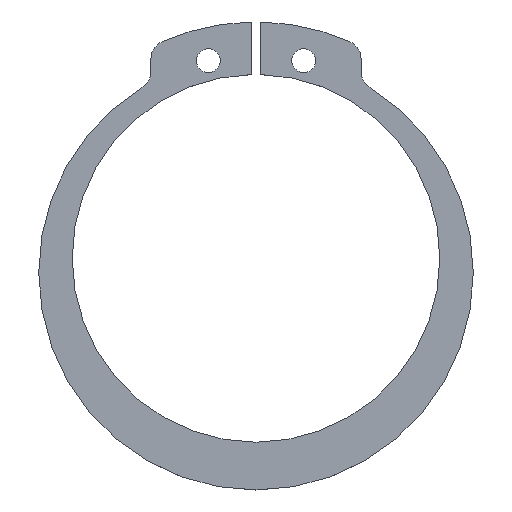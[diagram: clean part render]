
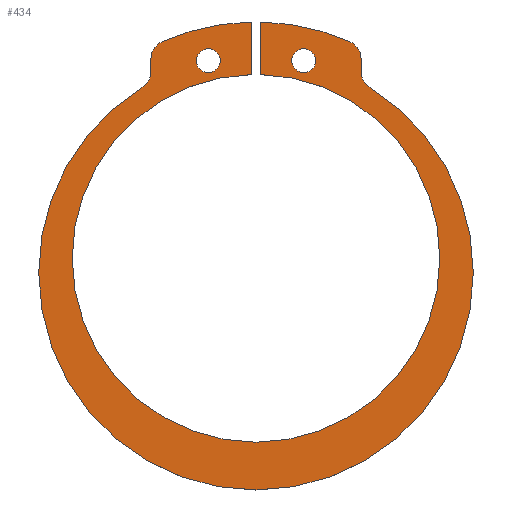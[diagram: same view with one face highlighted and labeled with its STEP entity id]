
A CAD part, top view. The second image highlights one B-rep face of the part: STEP entity #434.
In plain terms, the highlighted planar face has unit normal (0, 0, 1).
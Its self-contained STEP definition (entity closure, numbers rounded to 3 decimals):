
#70=CARTESIAN_POINT('Vertex',(-9.8,22.455,0.875)) ;
#73=CARTESIAN_POINT('Axis2P3D Location',(0.,0.,0.875)) ;
#77=CARTESIAN_POINT('Vertex',(-0.5,24.495,0.875)) ;
#264=CARTESIAN_POINT('Vertex',(-11.,20.622,0.875)) ;
#267=CARTESIAN_POINT('Axis2P3D Location',(-9.,20.622,0.875)) ;
#279=CARTESIAN_POINT('Axis2P3D Location',(-13.,19.311,0.875)) ;
#284=CARTESIAN_POINT('Axis2P3D Location',(-13.,19.311,0.875)) ;
#288=CARTESIAN_POINT('Vertex',(-11.949,17.609,0.875)) ;
#290=CARTESIAN_POINT('Vertex',(-11.,19.311,0.875)) ;
#293=CARTESIAN_POINT('Axis2P3D Location',(0.,-1.75,0.875)) ;
#297=CARTESIAN_POINT('Vertex',(-22.75,-1.75,0.875)) ;
#300=CARTESIAN_POINT('Axis2P3D Location',(0.,-1.75,0.875)) ;
#304=CARTESIAN_POINT('Vertex',(22.75,-1.75,0.875)) ;
#307=CARTESIAN_POINT('Axis2P3D Location',(0.,-1.75,0.875)) ;
#311=CARTESIAN_POINT('Vertex',(11.949,17.609,0.875)) ;
#314=CARTESIAN_POINT('Axis2P3D Location',(13.,19.311,0.875)) ;
#318=CARTESIAN_POINT('Vertex',(11.,19.311,0.875)) ;
#321=CARTESIAN_POINT('Line Origine',(11.,19.966,0.875)) ;
#325=CARTESIAN_POINT('Vertex',(11.,20.622,0.875)) ;
#328=CARTESIAN_POINT('Axis2P3D Location',(9.,20.622,0.875)) ;
#332=CARTESIAN_POINT('Vertex',(9.8,22.455,0.875)) ;
#335=CARTESIAN_POINT('Axis2P3D Location',(0.,0.,0.875)) ;
#339=CARTESIAN_POINT('Vertex',(0.5,24.495,0.875)) ;
#342=CARTESIAN_POINT('Line Origine',(0.5,21.744,0.875)) ;
#346=CARTESIAN_POINT('Vertex',(0.5,18.994,0.875)) ;
#349=CARTESIAN_POINT('Axis2P3D Location',(0.,-0.25,0.875)) ;
#353=CARTESIAN_POINT('Vertex',(19.25,-0.25,0.875)) ;
#356=CARTESIAN_POINT('Axis2P3D Location',(0.,-0.25,0.875)) ;
#360=CARTESIAN_POINT('Vertex',(-19.25,-0.25,0.875)) ;
#363=CARTESIAN_POINT('Axis2P3D Location',(0.,-0.25,0.875)) ;
#367=CARTESIAN_POINT('Vertex',(-0.5,18.994,0.875)) ;
#370=CARTESIAN_POINT('Line Origine',(-0.5,21.744,0.875)) ;
#375=CARTESIAN_POINT('Line Origine',(-11.,19.966,0.875)) ;
#398=CARTESIAN_POINT('Axis2P3D Location',(5.,20.444,0.875)) ;
#402=CARTESIAN_POINT('Vertex',(3.75,20.444,0.875)) ;
#404=CARTESIAN_POINT('Vertex',(6.25,20.444,0.875)) ;
#407=CARTESIAN_POINT('Axis2P3D Location',(5.,20.444,0.875)) ;
#416=CARTESIAN_POINT('Axis2P3D Location',(-5.,20.444,0.875)) ;
#420=CARTESIAN_POINT('Vertex',(-6.25,20.444,0.875)) ;
#422=CARTESIAN_POINT('Vertex',(-3.75,20.444,0.875)) ;
#425=CARTESIAN_POINT('Axis2P3D Location',(-5.,20.444,0.875)) ;
#74=DIRECTION('Axis2P3D Direction',(0.,0.,1.)) ;
#268=DIRECTION('Axis2P3D Direction',(0.,0.,1.)) ;
#280=DIRECTION('Axis2P3D Direction',(0.,0.,1.)) ;
#281=DIRECTION('Axis2P3D XDirection',(1.,0.,-0.)) ;
#285=DIRECTION('Axis2P3D Direction',(0.,0.,1.)) ;
#294=DIRECTION('Axis2P3D Direction',(0.,0.,1.)) ;
#301=DIRECTION('Axis2P3D Direction',(0.,0.,1.)) ;
#308=DIRECTION('Axis2P3D Direction',(0.,0.,1.)) ;
#315=DIRECTION('Axis2P3D Direction',(0.,0.,1.)) ;
#322=DIRECTION('Vector Direction',(0.,1.,0.)) ;
#329=DIRECTION('Axis2P3D Direction',(0.,0.,1.)) ;
#336=DIRECTION('Axis2P3D Direction',(0.,0.,1.)) ;
#343=DIRECTION('Vector Direction',(0.,-1.,0.)) ;
#350=DIRECTION('Axis2P3D Direction',(0.,0.,1.)) ;
#357=DIRECTION('Axis2P3D Direction',(0.,0.,1.)) ;
#364=DIRECTION('Axis2P3D Direction',(0.,0.,1.)) ;
#371=DIRECTION('Vector Direction',(0.,1.,0.)) ;
#376=DIRECTION('Vector Direction',(0.,-1.,0.)) ;
#399=DIRECTION('Axis2P3D Direction',(0.,0.,1.)) ;
#408=DIRECTION('Axis2P3D Direction',(0.,0.,1.)) ;
#417=DIRECTION('Axis2P3D Direction',(0.,0.,1.)) ;
#426=DIRECTION('Axis2P3D Direction',(0.,0.,1.)) ;
#75=AXIS2_PLACEMENT_3D('Circle Axis2P3D',#73,#74,$) ;
#269=AXIS2_PLACEMENT_3D('Circle Axis2P3D',#267,#268,$) ;
#282=AXIS2_PLACEMENT_3D('Plane Axis2P3D',#279,#280,#281) ;
#286=AXIS2_PLACEMENT_3D('Circle Axis2P3D',#284,#285,$) ;
#295=AXIS2_PLACEMENT_3D('Circle Axis2P3D',#293,#294,$) ;
#302=AXIS2_PLACEMENT_3D('Circle Axis2P3D',#300,#301,$) ;
#309=AXIS2_PLACEMENT_3D('Circle Axis2P3D',#307,#308,$) ;
#316=AXIS2_PLACEMENT_3D('Circle Axis2P3D',#314,#315,$) ;
#330=AXIS2_PLACEMENT_3D('Circle Axis2P3D',#328,#329,$) ;
#337=AXIS2_PLACEMENT_3D('Circle Axis2P3D',#335,#336,$) ;
#351=AXIS2_PLACEMENT_3D('Circle Axis2P3D',#349,#350,$) ;
#358=AXIS2_PLACEMENT_3D('Circle Axis2P3D',#356,#357,$) ;
#365=AXIS2_PLACEMENT_3D('Circle Axis2P3D',#363,#364,$) ;
#400=AXIS2_PLACEMENT_3D('Circle Axis2P3D',#398,#399,$) ;
#409=AXIS2_PLACEMENT_3D('Circle Axis2P3D',#407,#408,$) ;
#418=AXIS2_PLACEMENT_3D('Circle Axis2P3D',#416,#417,$) ;
#427=AXIS2_PLACEMENT_3D('Circle Axis2P3D',#425,#426,$) ;
#381=ORIENTED_EDGE('',*,*,#292,.F.) ;
#382=ORIENTED_EDGE('',*,*,#299,.T.) ;
#383=ORIENTED_EDGE('',*,*,#306,.T.) ;
#384=ORIENTED_EDGE('',*,*,#313,.T.) ;
#385=ORIENTED_EDGE('',*,*,#320,.F.) ;
#386=ORIENTED_EDGE('',*,*,#327,.T.) ;
#387=ORIENTED_EDGE('',*,*,#334,.T.) ;
#388=ORIENTED_EDGE('',*,*,#341,.T.) ;
#389=ORIENTED_EDGE('',*,*,#348,.T.) ;
#390=ORIENTED_EDGE('',*,*,#355,.F.) ;
#391=ORIENTED_EDGE('',*,*,#362,.F.) ;
#392=ORIENTED_EDGE('',*,*,#369,.F.) ;
#393=ORIENTED_EDGE('',*,*,#374,.T.) ;
#394=ORIENTED_EDGE('',*,*,#79,.T.) ;
#395=ORIENTED_EDGE('',*,*,#271,.T.) ;
#396=ORIENTED_EDGE('',*,*,#379,.T.) ;
#413=ORIENTED_EDGE('',*,*,#406,.F.) ;
#414=ORIENTED_EDGE('',*,*,#411,.F.) ;
#431=ORIENTED_EDGE('',*,*,#424,.F.) ;
#432=ORIENTED_EDGE('',*,*,#429,.F.) ;
#415=FACE_BOUND('',#412,.T.) ;
#433=FACE_BOUND('',#430,.T.) ;
#323=VECTOR('Line Direction',#322,1.) ;
#344=VECTOR('Line Direction',#343,1.) ;
#372=VECTOR('Line Direction',#371,1.) ;
#377=VECTOR('Line Direction',#376,1.) ;
#434=ADVANCED_FACE('553S-R42',(#397,#415,#433),#283,.T.) ;
#76=CIRCLE('generated circle',#75,24.5) ;
#270=CIRCLE('generated circle',#269,2.) ;
#287=CIRCLE('generated circle',#286,2.) ;
#296=CIRCLE('generated circle',#295,22.75) ;
#303=CIRCLE('generated circle',#302,22.75) ;
#310=CIRCLE('generated circle',#309,22.75) ;
#317=CIRCLE('generated circle',#316,2.) ;
#331=CIRCLE('generated circle',#330,2.) ;
#338=CIRCLE('generated circle',#337,24.5) ;
#352=CIRCLE('generated circle',#351,19.25) ;
#359=CIRCLE('generated circle',#358,19.25) ;
#366=CIRCLE('generated circle',#365,19.25) ;
#401=CIRCLE('generated circle',#400,1.25) ;
#410=CIRCLE('generated circle',#409,1.25) ;
#419=CIRCLE('generated circle',#418,1.25) ;
#428=CIRCLE('generated circle',#427,1.25) ;
#79=EDGE_CURVE('',#78,#71,#76,.T.) ;
#271=EDGE_CURVE('',#71,#265,#270,.T.) ;
#292=EDGE_CURVE('',#289,#291,#287,.T.) ;
#299=EDGE_CURVE('',#289,#298,#296,.T.) ;
#306=EDGE_CURVE('',#298,#305,#303,.T.) ;
#313=EDGE_CURVE('',#305,#312,#310,.T.) ;
#320=EDGE_CURVE('',#319,#312,#317,.T.) ;
#327=EDGE_CURVE('',#319,#326,#324,.T.) ;
#334=EDGE_CURVE('',#326,#333,#331,.T.) ;
#341=EDGE_CURVE('',#333,#340,#338,.T.) ;
#348=EDGE_CURVE('',#340,#347,#345,.T.) ;
#355=EDGE_CURVE('',#354,#347,#352,.T.) ;
#362=EDGE_CURVE('',#361,#354,#359,.T.) ;
#369=EDGE_CURVE('',#368,#361,#366,.T.) ;
#374=EDGE_CURVE('',#368,#78,#373,.T.) ;
#379=EDGE_CURVE('',#265,#291,#378,.T.) ;
#406=EDGE_CURVE('',#403,#405,#401,.T.) ;
#411=EDGE_CURVE('',#405,#403,#410,.T.) ;
#424=EDGE_CURVE('',#421,#423,#419,.T.) ;
#429=EDGE_CURVE('',#423,#421,#428,.T.) ;
#380=EDGE_LOOP('',(#381,#382,#383,#384,#385,#386,#387,#388,#389,#390,#391,#392,#393,#394,#395,#396)) ;
#412=EDGE_LOOP('',(#413,#414)) ;
#430=EDGE_LOOP('',(#431,#432)) ;
#397=FACE_OUTER_BOUND('',#380,.T.) ;
#324=LINE('Line',#321,#323) ;
#345=LINE('Line',#342,#344) ;
#373=LINE('Line',#370,#372) ;
#378=LINE('Line',#375,#377) ;
#283=PLANE('Plane',#282) ;
#71=VERTEX_POINT('',#70) ;
#78=VERTEX_POINT('',#77) ;
#265=VERTEX_POINT('',#264) ;
#289=VERTEX_POINT('',#288) ;
#291=VERTEX_POINT('',#290) ;
#298=VERTEX_POINT('',#297) ;
#305=VERTEX_POINT('',#304) ;
#312=VERTEX_POINT('',#311) ;
#319=VERTEX_POINT('',#318) ;
#326=VERTEX_POINT('',#325) ;
#333=VERTEX_POINT('',#332) ;
#340=VERTEX_POINT('',#339) ;
#347=VERTEX_POINT('',#346) ;
#354=VERTEX_POINT('',#353) ;
#361=VERTEX_POINT('',#360) ;
#368=VERTEX_POINT('',#367) ;
#403=VERTEX_POINT('',#402) ;
#405=VERTEX_POINT('',#404) ;
#421=VERTEX_POINT('',#420) ;
#423=VERTEX_POINT('',#422) ;
